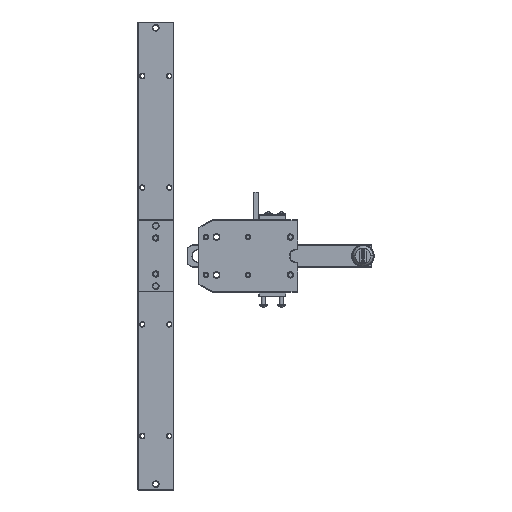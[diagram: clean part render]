
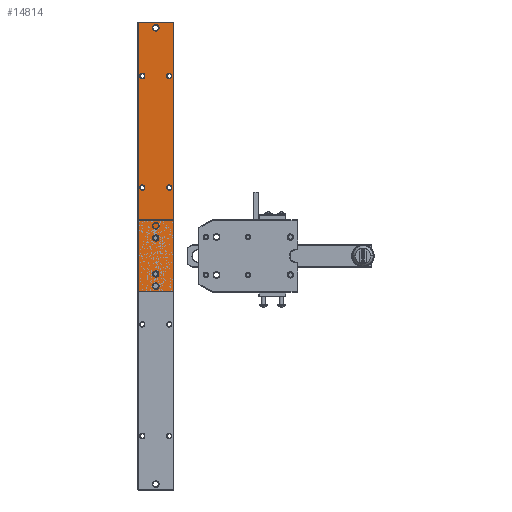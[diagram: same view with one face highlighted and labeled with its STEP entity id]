
A CAD part, top view. The second image highlights one B-rep face of the part: STEP entity #14814.
In plain terms, the highlighted planar face has unit normal (0, 0, 1) as drawn and (0, 0, -1) by its records, which use the part's own axes.
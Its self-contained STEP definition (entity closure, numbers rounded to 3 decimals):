
#12453=DIRECTION('',(0.,-1.,0.));
#12454=VECTOR('',#12453,299.);
#12455=CARTESIAN_POINT('',(19.5,149.5,-4.));
#12456=LINE('',#12455,#12454);
#12457=DIRECTION('',(1.,0.,0.));
#12458=VECTOR('',#12457,39.);
#12459=CARTESIAN_POINT('',(-19.5,149.5,-4.));
#12460=LINE('',#12459,#12458);
#12461=DIRECTION('',(0.,1.,0.));
#12462=VECTOR('',#12461,299.);
#12463=CARTESIAN_POINT('',(-19.5,-149.5,-4.));
#12464=LINE('',#12463,#12462);
#12465=DIRECTION('',(-1.,0.,0.));
#12466=VECTOR('',#12465,39.);
#12467=CARTESIAN_POINT('',(19.5,-149.5,-4.));
#12468=LINE('',#12467,#12466);
#12469=CARTESIAN_POINT('',(0.,-143.5,-4.));
#12470=DIRECTION('',(0.,0.,1.));
#12471=DIRECTION('',(1.,0.,0.));
#12472=AXIS2_PLACEMENT_3D('',#12469,#12470,#12471);
#12474=CARTESIAN_POINT('',(0.,-143.5,-4.));
#12475=DIRECTION('',(0.,0.,1.));
#12476=DIRECTION('',(-1.,0.,0.));
#12477=AXIS2_PLACEMENT_3D('',#12474,#12475,#12476);
#12479=CARTESIAN_POINT('',(-15.,-90.,-4.));
#12480=DIRECTION('',(0.,0.,1.));
#12481=DIRECTION('',(1.,0.,0.));
#12482=AXIS2_PLACEMENT_3D('',#12479,#12480,#12481);
#12484=CARTESIAN_POINT('',(-15.,-90.,-4.));
#12485=DIRECTION('',(0.,0.,1.));
#12486=DIRECTION('',(-1.,0.,0.));
#12487=AXIS2_PLACEMENT_3D('',#12484,#12485,#12486);
#12489=CARTESIAN_POINT('',(-15.,34.,-4.));
#12490=DIRECTION('',(0.,0.,1.));
#12491=DIRECTION('',(1.,0.,0.));
#12492=AXIS2_PLACEMENT_3D('',#12489,#12490,#12491);
#12494=CARTESIAN_POINT('',(-15.,34.,-4.));
#12495=DIRECTION('',(0.,0.,1.));
#12496=DIRECTION('',(-1.,0.,0.));
#12497=AXIS2_PLACEMENT_3D('',#12494,#12495,#12496);
#12499=CARTESIAN_POINT('',(0.,90.,-4.));
#12500=DIRECTION('',(0.,0.,1.));
#12501=DIRECTION('',(1.,0.,0.));
#12502=AXIS2_PLACEMENT_3D('',#12499,#12500,#12501);
#12504=CARTESIAN_POINT('',(0.,90.,-4.));
#12505=DIRECTION('',(0.,0.,1.));
#12506=DIRECTION('',(-1.,0.,0.));
#12507=AXIS2_PLACEMENT_3D('',#12504,#12505,#12506);
#12509=CARTESIAN_POINT('',(0.,130.,-4.));
#12510=DIRECTION('',(0.,0.,1.));
#12511=DIRECTION('',(1.,0.,0.));
#12512=AXIS2_PLACEMENT_3D('',#12509,#12510,#12511);
#12514=CARTESIAN_POINT('',(0.,130.,-4.));
#12515=DIRECTION('',(0.,0.,1.));
#12516=DIRECTION('',(-1.,0.,0.));
#12517=AXIS2_PLACEMENT_3D('',#12514,#12515,#12516);
#12519=CARTESIAN_POINT('',(0.,143.5,-4.));
#12520=DIRECTION('',(0.,0.,1.));
#12521=DIRECTION('',(1.,0.,0.));
#12522=AXIS2_PLACEMENT_3D('',#12519,#12520,#12521);
#12524=CARTESIAN_POINT('',(0.,143.5,-4.));
#12525=DIRECTION('',(0.,0.,1.));
#12526=DIRECTION('',(-1.,0.,0.));
#12527=AXIS2_PLACEMENT_3D('',#12524,#12525,#12526);
#12529=CARTESIAN_POINT('',(15.,34.,-4.));
#12530=DIRECTION('',(0.,0.,1.));
#12531=DIRECTION('',(1.,0.,0.));
#12532=AXIS2_PLACEMENT_3D('',#12529,#12530,#12531);
#12534=CARTESIAN_POINT('',(15.,34.,-4.));
#12535=DIRECTION('',(0.,0.,1.));
#12536=DIRECTION('',(-1.,0.,0.));
#12537=AXIS2_PLACEMENT_3D('',#12534,#12535,#12536);
#12539=CARTESIAN_POINT('',(15.,-90.,-4.));
#12540=DIRECTION('',(0.,0.,1.));
#12541=DIRECTION('',(1.,0.,0.));
#12542=AXIS2_PLACEMENT_3D('',#12539,#12540,#12541);
#12544=CARTESIAN_POINT('',(15.,-90.,-4.));
#12545=DIRECTION('',(0.,0.,1.));
#12546=DIRECTION('',(-1.,0.,0.));
#12547=AXIS2_PLACEMENT_3D('',#12544,#12545,#12546);
#14267=CARTESIAN_POINT('',(19.5,149.5,-4.));
#14268=CARTESIAN_POINT('',(19.5,-149.5,-4.));
#14269=VERTEX_POINT('',#14267);
#14270=VERTEX_POINT('',#14268);
#14275=CARTESIAN_POINT('',(-19.5,-149.5,-4.));
#14276=CARTESIAN_POINT('',(-19.5,149.5,-4.));
#14277=VERTEX_POINT('',#14275);
#14278=VERTEX_POINT('',#14276);
#14327=CARTESIAN_POINT('',(3.7,-143.5,-4.));
#14328=CARTESIAN_POINT('',(-3.7,-143.5,-4.));
#14329=VERTEX_POINT('',#14327);
#14330=VERTEX_POINT('',#14328);
#14335=CARTESIAN_POINT('',(-12.,-90.,-4.));
#14336=CARTESIAN_POINT('',(-18.,-90.,-4.));
#14337=VERTEX_POINT('',#14335);
#14338=VERTEX_POINT('',#14336);
#14343=CARTESIAN_POINT('',(-12.,34.,-4.));
#14344=CARTESIAN_POINT('',(-18.,34.,-4.));
#14345=VERTEX_POINT('',#14343);
#14346=VERTEX_POINT('',#14344);
#14351=CARTESIAN_POINT('',(3.5,90.,-4.));
#14352=CARTESIAN_POINT('',(-3.5,90.,-4.));
#14353=VERTEX_POINT('',#14351);
#14354=VERTEX_POINT('',#14352);
#14359=CARTESIAN_POINT('',(3.5,130.,-4.));
#14360=CARTESIAN_POINT('',(-3.5,130.,-4.));
#14361=VERTEX_POINT('',#14359);
#14362=VERTEX_POINT('',#14360);
#14367=CARTESIAN_POINT('',(3.7,143.5,-4.));
#14368=CARTESIAN_POINT('',(-3.7,143.5,-4.));
#14369=VERTEX_POINT('',#14367);
#14370=VERTEX_POINT('',#14368);
#14407=CARTESIAN_POINT('',(18.,34.,-4.));
#14408=CARTESIAN_POINT('',(12.,34.,-4.));
#14409=VERTEX_POINT('',#14407);
#14410=VERTEX_POINT('',#14408);
#14415=CARTESIAN_POINT('',(18.,-90.,-4.));
#14416=CARTESIAN_POINT('',(12.,-90.,-4.));
#14417=VERTEX_POINT('',#14415);
#14418=VERTEX_POINT('',#14416);
#14751=CARTESIAN_POINT('',(0.,0.,-4.));
#14752=DIRECTION('',(0.,0.,1.));
#14753=DIRECTION('',(1.,0.,0.));
#14754=AXIS2_PLACEMENT_3D('',#14751,#14752,#14753);
#14755=PLANE('',#14754);
#14757=ORIENTED_EDGE('',*,*,#14756,.F.);
#14759=ORIENTED_EDGE('',*,*,#14758,.F.);
#14761=ORIENTED_EDGE('',*,*,#14760,.F.);
#14763=ORIENTED_EDGE('',*,*,#14762,.F.);
#14764=EDGE_LOOP('',(#14757,#14759,#14761,#14763));
#14765=FACE_OUTER_BOUND('',#14764,.F.);
#14767=ORIENTED_EDGE('',*,*,#14766,.F.);
#14769=ORIENTED_EDGE('',*,*,#14768,.F.);
#14770=EDGE_LOOP('',(#14767,#14769));
#14771=FACE_BOUND('',#14770,.F.);
#14773=ORIENTED_EDGE('',*,*,#14772,.F.);
#14775=ORIENTED_EDGE('',*,*,#14774,.F.);
#14776=EDGE_LOOP('',(#14773,#14775));
#14777=FACE_BOUND('',#14776,.F.);
#14779=ORIENTED_EDGE('',*,*,#14778,.F.);
#14781=ORIENTED_EDGE('',*,*,#14780,.F.);
#14782=EDGE_LOOP('',(#14779,#14781));
#14783=FACE_BOUND('',#14782,.F.);
#14785=ORIENTED_EDGE('',*,*,#14784,.F.);
#14787=ORIENTED_EDGE('',*,*,#14786,.F.);
#14788=EDGE_LOOP('',(#14785,#14787));
#14789=FACE_BOUND('',#14788,.F.);
#14791=ORIENTED_EDGE('',*,*,#14790,.F.);
#14793=ORIENTED_EDGE('',*,*,#14792,.F.);
#14794=EDGE_LOOP('',(#14791,#14793));
#14795=FACE_BOUND('',#14794,.F.);
#14797=ORIENTED_EDGE('',*,*,#14796,.F.);
#14799=ORIENTED_EDGE('',*,*,#14798,.F.);
#14800=EDGE_LOOP('',(#14797,#14799));
#14801=FACE_BOUND('',#14800,.F.);
#14803=ORIENTED_EDGE('',*,*,#14802,.F.);
#14805=ORIENTED_EDGE('',*,*,#14804,.F.);
#14806=EDGE_LOOP('',(#14803,#14805));
#14807=FACE_BOUND('',#14806,.F.);
#14809=ORIENTED_EDGE('',*,*,#14808,.F.);
#14811=ORIENTED_EDGE('',*,*,#14810,.F.);
#14812=EDGE_LOOP('',(#14809,#14811));
#14813=FACE_BOUND('',#14812,.F.);
#14814=ADVANCED_FACE('',(#14765,#14771,#14777,#14783,#14789,#14795,#14801,
#14807,#14813),#14755,.F.);
#12473=CIRCLE('',#12472,3.7);
#12478=CIRCLE('',#12477,3.7);
#12483=CIRCLE('',#12482,3.);
#12488=CIRCLE('',#12487,3.);
#12493=CIRCLE('',#12492,3.);
#12498=CIRCLE('',#12497,3.);
#12503=CIRCLE('',#12502,3.5);
#12508=CIRCLE('',#12507,3.5);
#12513=CIRCLE('',#12512,3.5);
#12518=CIRCLE('',#12517,3.5);
#12523=CIRCLE('',#12522,3.7);
#12528=CIRCLE('',#12527,3.7);
#12533=CIRCLE('',#12532,3.);
#12538=CIRCLE('',#12537,3.);
#12543=CIRCLE('',#12542,3.);
#12548=CIRCLE('',#12547,3.);
#14756=EDGE_CURVE('',#14269,#14270,#12456,.T.);
#14758=EDGE_CURVE('',#14278,#14269,#12460,.T.);
#14760=EDGE_CURVE('',#14277,#14278,#12464,.T.);
#14762=EDGE_CURVE('',#14270,#14277,#12468,.T.);
#14766=EDGE_CURVE('',#14329,#14330,#12473,.T.);
#14768=EDGE_CURVE('',#14330,#14329,#12478,.T.);
#14772=EDGE_CURVE('',#14337,#14338,#12483,.T.);
#14774=EDGE_CURVE('',#14338,#14337,#12488,.T.);
#14778=EDGE_CURVE('',#14345,#14346,#12493,.T.);
#14780=EDGE_CURVE('',#14346,#14345,#12498,.T.);
#14784=EDGE_CURVE('',#14353,#14354,#12503,.T.);
#14786=EDGE_CURVE('',#14354,#14353,#12508,.T.);
#14790=EDGE_CURVE('',#14361,#14362,#12513,.T.);
#14792=EDGE_CURVE('',#14362,#14361,#12518,.T.);
#14796=EDGE_CURVE('',#14369,#14370,#12523,.T.);
#14798=EDGE_CURVE('',#14370,#14369,#12528,.T.);
#14802=EDGE_CURVE('',#14409,#14410,#12533,.T.);
#14804=EDGE_CURVE('',#14410,#14409,#12538,.T.);
#14808=EDGE_CURVE('',#14417,#14418,#12543,.T.);
#14810=EDGE_CURVE('',#14418,#14417,#12548,.T.);
